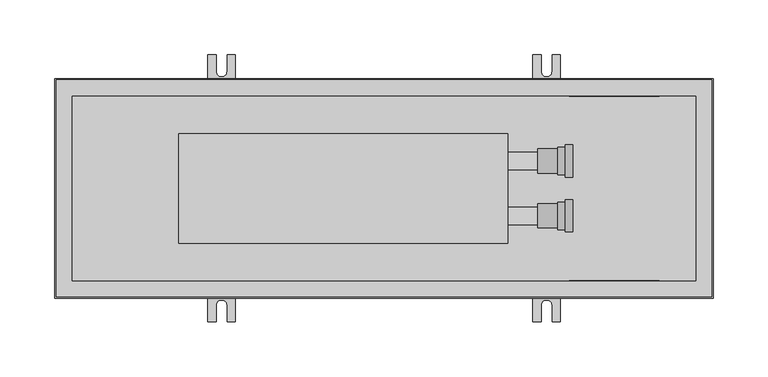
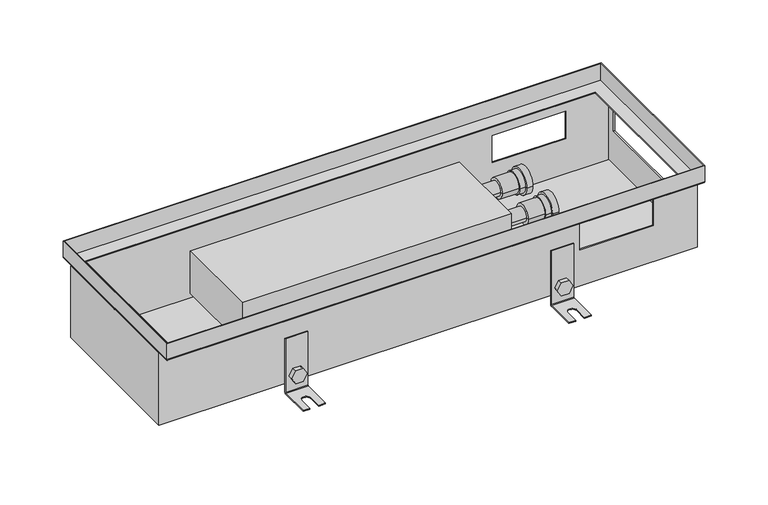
"""IFC4 building model written with IfcOpenShell, lengths in millimetres: proxy geometry, TECHNO_Конвектор встраиваемый_Usual_KVZ-200_85-105-120 : KVZ 200-105."""

from ifc_helpers import new_model, si_unit, point, frame, frame_2d, origin, place, context, project, spatial, polyline, circle_curve, ellipse_curve, trimmed, segment, composite_curve, outline, extrude, faceted_brep, source, transform, mapped, element, save
from ifc_brep_helpers import plane_surface, cylinder_surface, revolved_surface, advanced_brep


def mechanical_equipment_3e8f2376(model_context):
    return source(origin(), model_context, "Body", "SolidModel", [
        extrude(outline(composite_curve([segment(trimmed(circle_curve(frame_2d((-95.5, 448.2)), 7.5), [point((-95.5, 440.7))], [point((-95.5, 455.7))], False, "CARTESIAN"), True, "CONTINUOUS"), segment(trimmed(circle_curve(frame_2d((-95.5, 448.2)), 7.5), [point((-95.5, 455.7))], [point((-95.5, 440.7))], False, "CARTESIAN"), True, "CONTINUOUS")], self_intersect=False)), frame((0.0, 85.2, 0.0), z_axis=(0.0, 1.0, 0.0), x_axis=(0.0, 0.0, 1.0)), (0.0, 0.0, 1.0), 1.5),
        extrude(outline(polyline([(-95.5, 439.539746), (-103.0, 443.869873), (-103.0, 452.530127), (-95.5, 456.860254), (-88.0, 452.530127), (-88.0, 443.869873), (-95.5, 439.539746)])), frame((0.0, 87.9, 0.0), z_axis=(0.0, 1.0, 0.0), x_axis=(0.0, 0.0, 1.0)), (0.0, 0.0, 1.0), 5.1),
        advanced_brep(
        [(460.7, 87.9, -50.5), (460.7, 86.7, -50.5), (460.7, 86.7, -113.5), (460.7, 88.7, -115.5), (460.7, 121.7, -115.5), (460.7, 121.7, -114.3), (460.7, 88.7, -114.3), (460.7, 87.9, -113.5), (435.7, 87.9, -50.5), (435.7, 87.9, -113.5), (435.7, 88.7, -114.3), (435.7, 121.7, -114.3), (435.7, 121.7, -115.5), (435.7, 88.7, -115.5), (435.7, 86.7, -113.5), (435.7, 86.7, -50.5), (453.2, 121.7, -114.3), (453.2, 106.7, -114.3), (443.2, 106.7, -114.3), (443.2, 121.7, -114.3), (443.2, 121.7, -115.5), (453.2, 121.7, -115.5), (443.2, 106.7, -115.5), (453.2, 106.7, -115.5)],
        [
            (0, 1),
            (1, 2),
            (2, 3, circle_curve(frame((460.7, 88.7, -113.5), z_axis=(1.0, 0.0, 0.0), x_axis=(0.0, 1.0, 0.0)), 2.0)),
            (3, 4),
            (4, 5),
            (5, 6),
            (6, 7, circle_curve(frame((460.7, 88.7, -113.5), z_axis=(-1.0, 0.0, 0.0), x_axis=(0.0, 1.0, 0.0)), 0.8)),
            (7, 0),
            (8, 9),
            (9, 10, circle_curve(frame((435.7, 88.7, -113.5), z_axis=(1.0, 0.0, 0.0), x_axis=(0.0, 1.0, 0.0)), 0.8)),
            (10, 11),
            (11, 12),
            (12, 13),
            (13, 14, circle_curve(frame((435.7, 88.7, -113.5), z_axis=(-1.0, 0.0, 0.0), x_axis=(0.0, 1.0, 0.0)), 2.0)),
            (14, 15),
            (15, 8),
            (7, 9),
            (8, 0),
            (6, 10),
            (5, 16),
            (16, 17),
            (17, 18, circle_curve(frame((448.2, 106.7, -114.3), z_axis=(0.0, 0.0, -1.0), x_axis=(1.0, 0.0, 0.0)), 5.0)),
            (18, 19),
            (19, 11),
            (19, 20),
            (20, 12),
            (4, 21),
            (21, 16),
            (3, 13),
            (20, 22),
            (22, 23, circle_curve(frame((448.2, 106.7, -115.5), z_axis=(0.0, 0.0, 1.0), x_axis=(1.0, 0.0, 0.0)), 5.0)),
            (23, 21),
            (2, 14),
            (1, 15),
            (18, 22),
            (23, 17),
        ],
        [
            plane_surface(frame((460.7, 87.9, -50.5), z_axis=(1.0, 0.0, 0.0), x_axis=(0.0, 0.0, -1.0))),
            plane_surface(frame((435.7, 87.9, -50.5), z_axis=(-1.0, 0.0, 0.0), x_axis=(0.0, 0.0, 1.0))),
            plane_surface(frame((460.7, 87.9, -50.5), z_axis=(0.0, 1.0, 0.0), x_axis=(-1.0, 0.0, 0.0))),
            revolved_surface(polyline([(435.7, 89.5, -113.5), (460.7, 89.5, -113.5)]), (435.7, 88.7, -113.5), (-1.0, 0.0, 0.0)),
            plane_surface(frame((460.7, 88.7, -114.3), z_axis=(0.0, 0.0, 1.0), x_axis=(-1.0, 0.0, 0.0))),
            plane_surface(frame((460.7, 121.7, -114.3), z_axis=(0.0, 1.0, 0.0), x_axis=(-1.0, 0.0, 0.0))),
            plane_surface(frame((460.7, 121.7, -115.5), z_axis=(0.0, 0.0, -1.0), x_axis=(-1.0, 0.0, 0.0))),
            cylinder_surface(frame((435.7, 88.7, -113.5), z_axis=(1.0, 0.0, 0.0), x_axis=(0.0, 1.0, 0.0)), 2.0),
            plane_surface(frame((460.7, 86.7, -113.5), z_axis=(0.0, -1.0, 0.0), x_axis=(-1.0, 0.0, 0.0))),
            plane_surface(frame((460.7, 86.7, -50.5), z_axis=(0.0, 0.0, 1.0), x_axis=(-1.0, 0.0, 0.0))),
            plane_surface(frame((443.2, 106.7, -114.3), z_axis=(1.0, 0.0, 0.0), x_axis=(0.0, 0.0, -1.0))),
            plane_surface(frame((453.2, 121.7, -114.3), z_axis=(-1.0, 0.0, 0.0), x_axis=(0.0, 0.0, -1.0))),
            revolved_surface(polyline([(453.2, 106.7, -114.3), (453.2, 106.7, -115.5)]), (448.2, 106.7, -115.5), (0.0, 0.0, 1.0)),
        ],
        [
            (0, [[1, 2, 3, 4, 5, 6, 7, 8]]),
            (1, [[9, 10, 11, 12, 13, 14, 15, 16]]),
            (2, [[17, -9, 18, -8]]),
            (3, [[19, -10, -17, -7]]),
            (4, [[20, 21, 22, 23, 24, -11, -19, -6]]),
            (5, [[-24, 25, 26, -12]]),
            (5, [[27, 28, -20, -5]]),
            (6, [[29, -13, -26, 30, 31, 32, -27, -4]]),
            (7, [[33, -14, -29, -3]]),
            (8, [[34, -15, -33, -2]]),
            (9, [[-18, -16, -34, -1]]),
            (10, [[-30, -25, -23, 35]]),
            (11, [[-21, -28, -32, 36]]),
            (12, [[-22, -36, -31, -35]]),
        ],
    ),
        extrude(outline(composite_curve([segment(trimmed(circle_curve(frame_2d((-95.5, 448.2)), 7.5), [point((-95.5, 440.7))], [point((-95.5, 455.7))], False, "CARTESIAN"), True, "CONTINUOUS"), segment(trimmed(circle_curve(frame_2d((-95.5, 448.2)), 7.5), [point((-95.5, 455.7))], [point((-95.5, 440.7))], False, "CARTESIAN"), True, "CONTINUOUS")], self_intersect=False)), frame((0.0, -86.7, 0.0), z_axis=(0.0, 1.0, 0.0), x_axis=(0.0, 0.0, 1.0)), (0.0, 0.0, 1.0), 1.5),
        extrude(outline(polyline([(-95.5, 439.539746), (-103.0, 443.869873), (-103.0, 452.530127), (-95.5, 456.860254), (-88.0, 452.530127), (-88.0, 443.869873), (-95.5, 439.539746)])), frame((0.0, -93.0, 0.0), z_axis=(0.0, 1.0, 0.0), x_axis=(0.0, 0.0, 1.0)), (0.0, 0.0, 1.0), 5.1),
        advanced_brep(
        [(460.7, -87.9, -50.5), (460.7, -87.9, -113.5), (460.7, -88.7, -114.3), (460.7, -121.7, -114.3), (460.7, -121.7, -115.5), (460.7, -88.7, -115.5), (460.7, -86.7, -113.5), (460.7, -86.7, -50.5), (435.7, -87.9, -50.5), (435.7, -86.7, -50.5), (435.7, -86.7, -113.5), (435.7, -88.7, -115.5), (435.7, -121.7, -115.5), (435.7, -121.7, -114.3), (435.7, -88.7, -114.3), (435.7, -87.9, -113.5), (443.2, -121.7, -114.3), (443.2, -106.7, -114.3), (453.2, -106.7, -114.3), (453.2, -121.7, -114.3), (453.2, -121.7, -115.5), (443.2, -121.7, -115.5), (453.2, -106.7, -115.5), (443.2, -106.7, -115.5)],
        [
            (0, 1),
            (1, 2, circle_curve(frame((460.7, -88.7, -113.5), z_axis=(-1.0, 0.0, 0.0), x_axis=(0.0, -1.0, 0.0)), 0.8)),
            (2, 3),
            (3, 4),
            (4, 5),
            (5, 6, circle_curve(frame((460.7, -88.7, -113.5), z_axis=(1.0, 0.0, 0.0), x_axis=(0.0, -1.0, 0.0)), 2.0)),
            (6, 7),
            (7, 0),
            (8, 9),
            (9, 10),
            (10, 11, circle_curve(frame((435.7, -88.7, -113.5), z_axis=(-1.0, 0.0, 0.0), x_axis=(0.0, -1.0, 0.0)), 2.0)),
            (11, 12),
            (12, 13),
            (13, 14),
            (14, 15, circle_curve(frame((435.7, -88.7, -113.5), z_axis=(1.0, 0.0, 0.0), x_axis=(0.0, -1.0, 0.0)), 0.8)),
            (15, 8),
            (0, 8),
            (15, 1),
            (14, 2),
            (13, 16),
            (16, 17),
            (17, 18, circle_curve(frame((448.2, -106.7, -114.3), z_axis=(0.0, 0.0, -1.0), x_axis=(1.0, 0.0, 0.0)), 5.0)),
            (18, 19),
            (19, 3),
            (19, 20),
            (20, 4),
            (12, 21),
            (21, 16),
            (20, 22),
            (22, 23, circle_curve(frame((448.2, -106.7, -115.5), z_axis=(0.0, 0.0, 1.0), x_axis=(1.0, 0.0, 0.0)), 5.0)),
            (23, 21),
            (11, 5),
            (10, 6),
            (9, 7),
            (23, 17),
            (18, 22),
        ],
        [
            plane_surface(frame((460.7, -87.9, -50.5), z_axis=(1.0, 0.0, 0.0), x_axis=(0.0, 0.0, -1.0))),
            plane_surface(frame((435.7, -87.9, -50.5), z_axis=(-1.0, 0.0, 0.0), x_axis=(0.0, 0.0, 1.0))),
            plane_surface(frame((460.7, -87.9, -50.5), z_axis=(0.0, -1.0, 0.0), x_axis=(-1.0, 0.0, 0.0))),
            revolved_surface(polyline([(435.7, -89.5, -113.5), (460.7, -89.5, -113.5)]), (435.7, -88.7, -113.5), (-1.0, 0.0, 0.0)),
            plane_surface(frame((460.7, -88.7, -114.3), z_axis=(0.0, 0.0, 1.0), x_axis=(-1.0, 0.0, 0.0))),
            plane_surface(frame((460.7, -121.7, -114.3), z_axis=(0.0, -1.0, 0.0), x_axis=(-1.0, 0.0, 0.0))),
            plane_surface(frame((460.7, -121.7, -115.5), z_axis=(0.0, 0.0, -1.0), x_axis=(-1.0, 0.0, 0.0))),
            cylinder_surface(frame((435.7, -88.7, -113.5), z_axis=(1.0, 0.0, 0.0), x_axis=(0.0, -1.0, 0.0)), 2.0),
            plane_surface(frame((460.7, -86.7, -113.5), z_axis=(0.0, 1.0, 0.0), x_axis=(-1.0, 0.0, 0.0))),
            plane_surface(frame((460.7, -86.7, -50.5), z_axis=(0.0, 0.0, 1.0), x_axis=(-1.0, 0.0, 0.0))),
            plane_surface(frame((443.2, -106.7, -114.3), z_axis=(1.0, 0.0, 0.0), x_axis=(0.0, 0.0, -1.0))),
            plane_surface(frame((453.2, -121.7, -114.3), z_axis=(-1.0, 0.0, 0.0), x_axis=(0.0, 0.0, -1.0))),
            revolved_surface(polyline([(453.2, -106.7, -114.3), (453.2, -106.7, -115.5)]), (448.2, -106.7, -115.5), (0.0, 0.0, 1.0)),
        ],
        [
            (0, [[1, 2, 3, 4, 5, 6, 7, 8]]),
            (1, [[9, 10, 11, 12, 13, 14, 15, 16]]),
            (2, [[-1, 17, -16, 18]]),
            (3, [[-2, -18, -15, 19]]),
            (4, [[-3, -19, -14, 20, 21, 22, 23, 24]]),
            (5, [[-4, -24, 25, 26]]),
            (5, [[-13, 27, 28, -20]]),
            (6, [[-5, -26, 29, 30, 31, -27, -12, 32]]),
            (7, [[-6, -32, -11, 33]]),
            (8, [[-7, -33, -10, 34]]),
            (9, [[-8, -34, -9, -17]]),
            (10, [[35, -21, -28, -31]]),
            (11, [[36, -29, -25, -23]]),
            (12, [[-35, -30, -36, -22]]),
        ],
    ),
        extrude(outline(composite_curve([segment(trimmed(circle_curve(frame_2d((-95.5, 152.0)), 7.5), [point((-95.5, 144.5))], [point((-95.5, 159.5))], False, "CARTESIAN"), True, "CONTINUOUS"), segment(trimmed(circle_curve(frame_2d((-95.5, 152.0)), 7.5), [point((-95.5, 159.5))], [point((-95.5, 144.5))], False, "CARTESIAN"), True, "CONTINUOUS")], self_intersect=False)), frame((0.0, 85.2, 0.0), z_axis=(0.0, 1.0, 0.0), x_axis=(0.0, 0.0, 1.0)), (0.0, 0.0, 1.0), 1.5),
        extrude(outline(polyline([(-95.5, 143.339746), (-103.0, 147.669873), (-103.0, 156.330127), (-95.5, 160.660254), (-88.0, 156.330127), (-88.0, 147.669873), (-95.5, 143.339746)])), frame((0.0, 87.9, 0.0), z_axis=(0.0, 1.0, 0.0), x_axis=(0.0, 0.0, 1.0)), (0.0, 0.0, 1.0), 5.1),
        advanced_brep(
        [(164.5, 87.9, -50.5), (164.5, 86.7, -50.5), (164.5, 86.7, -113.5), (164.5, 88.7, -115.5), (164.5, 121.7, -115.5), (164.5, 121.7, -114.3), (164.5, 88.7, -114.3), (164.5, 87.9, -113.5), (139.5, 87.9, -50.5), (139.5, 87.9, -113.5), (139.5, 88.7, -114.3), (139.5, 121.7, -114.3), (139.5, 121.7, -115.5), (139.5, 88.7, -115.5), (139.5, 86.7, -113.5), (139.5, 86.7, -50.5), (157.0, 121.7, -114.3), (157.0, 106.7, -114.3), (147.0, 106.7, -114.3), (147.0, 121.7, -114.3), (147.0, 121.7, -115.5), (157.0, 121.7, -115.5), (147.0, 106.7, -115.5), (157.0, 106.7, -115.5)],
        [
            (0, 1),
            (1, 2),
            (2, 3, circle_curve(frame((164.5, 88.7, -113.5), z_axis=(1.0, 0.0, 0.0), x_axis=(0.0, 1.0, 0.0)), 2.0)),
            (3, 4),
            (4, 5),
            (5, 6),
            (6, 7, circle_curve(frame((164.5, 88.7, -113.5), z_axis=(-1.0, 0.0, 0.0), x_axis=(0.0, 1.0, 0.0)), 0.8)),
            (7, 0),
            (8, 9),
            (9, 10, circle_curve(frame((139.5, 88.7, -113.5), z_axis=(1.0, 0.0, 0.0), x_axis=(0.0, 1.0, 0.0)), 0.8)),
            (10, 11),
            (11, 12),
            (12, 13),
            (13, 14, circle_curve(frame((139.5, 88.7, -113.5), z_axis=(-1.0, 0.0, 0.0), x_axis=(0.0, 1.0, 0.0)), 2.0)),
            (14, 15),
            (15, 8),
            (7, 9),
            (8, 0),
            (6, 10),
            (5, 16),
            (16, 17),
            (17, 18, circle_curve(frame((152.0, 106.7, -114.3), z_axis=(0.0, 0.0, -1.0), x_axis=(1.0, 0.0, 0.0)), 5.0)),
            (18, 19),
            (19, 11),
            (19, 20),
            (20, 12),
            (4, 21),
            (21, 16),
            (3, 13),
            (20, 22),
            (22, 23, circle_curve(frame((152.0, 106.7, -115.5), z_axis=(0.0, 0.0, 1.0), x_axis=(1.0, 0.0, 0.0)), 5.0)),
            (23, 21),
            (2, 14),
            (1, 15),
            (18, 22),
            (23, 17),
        ],
        [
            plane_surface(frame((164.5, 87.9, -50.5), z_axis=(1.0, 0.0, 0.0), x_axis=(0.0, 0.0, -1.0))),
            plane_surface(frame((139.5, 87.9, -50.5), z_axis=(-1.0, 0.0, 0.0), x_axis=(0.0, 0.0, 1.0))),
            plane_surface(frame((164.5, 87.9, -50.5), z_axis=(0.0, 1.0, 0.0), x_axis=(-1.0, 0.0, 0.0))),
            revolved_surface(polyline([(139.5, 89.5, -113.5), (164.5, 89.5, -113.5)]), (139.5, 88.7, -113.5), (-1.0, 0.0, 0.0)),
            plane_surface(frame((164.5, 88.7, -114.3), z_axis=(0.0, 0.0, 1.0), x_axis=(-1.0, 0.0, 0.0))),
            plane_surface(frame((164.5, 121.7, -114.3), z_axis=(0.0, 1.0, 0.0), x_axis=(-1.0, 0.0, 0.0))),
            plane_surface(frame((164.5, 121.7, -115.5), z_axis=(0.0, 0.0, -1.0), x_axis=(-1.0, 0.0, 0.0))),
            cylinder_surface(frame((139.5, 88.7, -113.5), z_axis=(1.0, 0.0, 0.0), x_axis=(0.0, 1.0, 0.0)), 2.0),
            plane_surface(frame((164.5, 86.7, -113.5), z_axis=(0.0, -1.0, 0.0), x_axis=(-1.0, 0.0, 0.0))),
            plane_surface(frame((164.5, 86.7, -50.5), z_axis=(0.0, 0.0, 1.0), x_axis=(-1.0, 0.0, 0.0))),
            plane_surface(frame((147.0, 106.7, -114.3), z_axis=(1.0, 0.0, 0.0), x_axis=(0.0, 0.0, -1.0))),
            plane_surface(frame((157.0, 121.7, -114.3), z_axis=(-1.0, 0.0, 0.0), x_axis=(0.0, 0.0, -1.0))),
            revolved_surface(polyline([(157.0, 106.7, -114.3), (157.0, 106.7, -115.5)]), (152.0, 106.7, -115.5), (0.0, 0.0, 1.0)),
        ],
        [
            (0, [[1, 2, 3, 4, 5, 6, 7, 8]]),
            (1, [[9, 10, 11, 12, 13, 14, 15, 16]]),
            (2, [[17, -9, 18, -8]]),
            (3, [[19, -10, -17, -7]]),
            (4, [[20, 21, 22, 23, 24, -11, -19, -6]]),
            (5, [[-24, 25, 26, -12]]),
            (5, [[27, 28, -20, -5]]),
            (6, [[29, -13, -26, 30, 31, 32, -27, -4]]),
            (7, [[33, -14, -29, -3]]),
            (8, [[34, -15, -33, -2]]),
            (9, [[-18, -16, -34, -1]]),
            (10, [[-30, -25, -23, 35]]),
            (11, [[-21, -28, -32, 36]]),
            (12, [[-22, -36, -31, -35]]),
        ],
    ),
        extrude(outline(composite_curve([segment(trimmed(circle_curve(frame_2d((-95.5, 152.0)), 7.5), [point((-95.5, 144.5))], [point((-95.5, 159.5))], False, "CARTESIAN"), True, "CONTINUOUS"), segment(trimmed(circle_curve(frame_2d((-95.5, 152.0)), 7.5), [point((-95.5, 159.5))], [point((-95.5, 144.5))], False, "CARTESIAN"), True, "CONTINUOUS")], self_intersect=False)), frame((0.0, -86.7, 0.0), z_axis=(0.0, 1.0, 0.0), x_axis=(0.0, 0.0, 1.0)), (0.0, 0.0, 1.0), 1.5),
        extrude(outline(polyline([(-95.5, 143.339746), (-103.0, 147.669873), (-103.0, 156.330127), (-95.5, 160.660254), (-88.0, 156.330127), (-88.0, 147.669873), (-95.5, 143.339746)])), frame((0.0, -93.0, 0.0), z_axis=(0.0, 1.0, 0.0), x_axis=(0.0, 0.0, 1.0)), (0.0, 0.0, 1.0), 5.1),
        advanced_brep(
        [(164.5, -87.9, -50.5), (164.5, -87.9, -113.5), (164.5, -88.7, -114.3), (164.5, -121.7, -114.3), (164.5, -121.7, -115.5), (164.5, -88.7, -115.5), (164.5, -86.7, -113.5), (164.5, -86.7, -50.5), (139.5, -87.9, -50.5), (139.5, -86.7, -50.5), (139.5, -86.7, -113.5), (139.5, -88.7, -115.5), (139.5, -121.7, -115.5), (139.5, -121.7, -114.3), (139.5, -88.7, -114.3), (139.5, -87.9, -113.5), (147.0, -121.7, -114.3), (147.0, -106.7, -114.3), (157.0, -106.7, -114.3), (157.0, -121.7, -114.3), (157.0, -121.7, -115.5), (147.0, -121.7, -115.5), (157.0, -106.7, -115.5), (147.0, -106.7, -115.5)],
        [
            (0, 1),
            (1, 2, circle_curve(frame((164.5, -88.7, -113.5), z_axis=(-1.0, 0.0, 0.0), x_axis=(0.0, -1.0, 0.0)), 0.8)),
            (2, 3),
            (3, 4),
            (4, 5),
            (5, 6, circle_curve(frame((164.5, -88.7, -113.5), z_axis=(1.0, 0.0, 0.0), x_axis=(0.0, -1.0, 0.0)), 2.0)),
            (6, 7),
            (7, 0),
            (8, 9),
            (9, 10),
            (10, 11, circle_curve(frame((139.5, -88.7, -113.5), z_axis=(-1.0, 0.0, 0.0), x_axis=(0.0, -1.0, 0.0)), 2.0)),
            (11, 12),
            (12, 13),
            (13, 14),
            (14, 15, circle_curve(frame((139.5, -88.7, -113.5), z_axis=(1.0, 0.0, 0.0), x_axis=(0.0, -1.0, 0.0)), 0.8)),
            (15, 8),
            (0, 8),
            (15, 1),
            (14, 2),
            (13, 16),
            (16, 17),
            (17, 18, circle_curve(frame((152.0, -106.7, -114.3), z_axis=(0.0, 0.0, -1.0), x_axis=(1.0, 0.0, 0.0)), 5.0)),
            (18, 19),
            (19, 3),
            (19, 20),
            (20, 4),
            (12, 21),
            (21, 16),
            (20, 22),
            (22, 23, circle_curve(frame((152.0, -106.7, -115.5), z_axis=(0.0, 0.0, 1.0), x_axis=(1.0, 0.0, 0.0)), 5.0)),
            (23, 21),
            (11, 5),
            (10, 6),
            (9, 7),
            (23, 17),
            (18, 22),
        ],
        [
            plane_surface(frame((164.5, -87.9, -50.5), z_axis=(1.0, 0.0, 0.0), x_axis=(0.0, 0.0, -1.0))),
            plane_surface(frame((139.5, -87.9, -50.5), z_axis=(-1.0, 0.0, 0.0), x_axis=(0.0, 0.0, 1.0))),
            plane_surface(frame((164.5, -87.9, -50.5), z_axis=(0.0, -1.0, 0.0), x_axis=(-1.0, 0.0, 0.0))),
            revolved_surface(polyline([(139.5, -89.5, -113.5), (164.5, -89.5, -113.5)]), (139.5, -88.7, -113.5), (-1.0, 0.0, 0.0)),
            plane_surface(frame((164.5, -88.7, -114.3), z_axis=(0.0, 0.0, 1.0), x_axis=(-1.0, 0.0, 0.0))),
            plane_surface(frame((164.5, -121.7, -114.3), z_axis=(0.0, -1.0, 0.0), x_axis=(-1.0, 0.0, 0.0))),
            plane_surface(frame((164.5, -121.7, -115.5), z_axis=(0.0, 0.0, -1.0), x_axis=(-1.0, 0.0, 0.0))),
            cylinder_surface(frame((139.5, -88.7, -113.5), z_axis=(1.0, 0.0, 0.0), x_axis=(0.0, -1.0, 0.0)), 2.0),
            plane_surface(frame((164.5, -86.7, -113.5), z_axis=(0.0, 1.0, 0.0), x_axis=(-1.0, 0.0, 0.0))),
            plane_surface(frame((164.5, -86.7, -50.5), z_axis=(0.0, 0.0, 1.0), x_axis=(-1.0, 0.0, 0.0))),
            plane_surface(frame((147.0, -106.7, -114.3), z_axis=(1.0, 0.0, 0.0), x_axis=(0.0, 0.0, -1.0))),
            plane_surface(frame((157.0, -121.7, -114.3), z_axis=(-1.0, 0.0, 0.0), x_axis=(0.0, 0.0, -1.0))),
            revolved_surface(polyline([(157.0, -106.7, -114.3), (157.0, -106.7, -115.5)]), (152.0, -106.7, -115.5), (0.0, 0.0, 1.0)),
        ],
        [
            (0, [[1, 2, 3, 4, 5, 6, 7, 8]]),
            (1, [[9, 10, 11, 12, 13, 14, 15, 16]]),
            (2, [[-1, 17, -16, 18]]),
            (3, [[-2, -18, -15, 19]]),
            (4, [[-3, -19, -14, 20, 21, 22, 23, 24]]),
            (5, [[-4, -24, 25, 26]]),
            (5, [[-13, 27, 28, -20]]),
            (6, [[-5, -26, 29, 30, 31, -27, -12, 32]]),
            (7, [[-6, -32, -11, 33]]),
            (8, [[-7, -33, -10, 34]]),
            (9, [[-8, -34, -9, -17]]),
            (10, [[35, -21, -28, -31]]),
            (11, [[36, -29, -25, -23]]),
            (12, [[-35, -30, -36, -22]]),
        ],
    ),
        extrude(outline(polyline([(413.0, 50.0), (413.0, -50.0), (113.0, -50.0), (113.0, 50.0), (413.0, 50.0)])), frame((0.0, 0.0, -71.3), z_axis=(0.0, 0.0, 1.0), x_axis=(1.0, 0.0, 0.0)), (0.0, 0.0, 1.0), 50.0),
        advanced_brep(
        [(440.0, 25.0, -46.3), (440.0, 36.0, -46.3), (440.0, 14.0, -46.3), (458.5, 36.0, -46.3), (458.5, 14.0, -46.3), (458.5, 37.5, -46.3), (458.5, 12.5, -46.3), (465.0, 37.5, -46.3), (465.0, 12.5, -46.3), (465.0, 39.7, -46.3), (465.0, 10.3, -46.3), (472.0, 39.7, -46.3), (472.0, 10.3, -46.3), (472.0, 25.0, -46.3)],
        [
            (0, 1),
            (1, 2, circle_curve(frame((440.0, 25.0, -46.3), z_axis=(-1.0, 0.0, 0.0), x_axis=(0.0, 1.0, 0.0)), 11.0)),
            (2, 0),
            (2, 1, circle_curve(frame((440.0, 25.0, -46.3), z_axis=(-1.0, 0.0, 0.0), x_axis=(0.0, 1.0, 0.0)), 11.0)),
            (1, 3),
            (3, 4, circle_curve(frame((458.5, 25.0, -46.3), z_axis=(-1.0, 0.0, 0.0), x_axis=(0.0, 1.0, 0.0)), 11.0)),
            (4, 2),
            (4, 3, circle_curve(frame((458.5, 25.0, -46.3), z_axis=(-1.0, 0.0, 0.0), x_axis=(0.0, 1.0, 0.0)), 11.0)),
            (3, 5),
            (5, 6, circle_curve(frame((458.5, 25.0, -46.3), z_axis=(-1.0, 0.0, 0.0), x_axis=(0.0, 1.0, 0.0)), 12.5)),
            (6, 4),
            (6, 5, circle_curve(frame((458.5, 25.0, -46.3), z_axis=(-1.0, 0.0, 0.0), x_axis=(0.0, 1.0, 0.0)), 12.5)),
            (5, 7),
            (7, 8, circle_curve(frame((465.0, 25.0, -46.3), z_axis=(-1.0, 0.0, 0.0), x_axis=(0.0, 1.0, 0.0)), 12.5)),
            (8, 6),
            (8, 7, circle_curve(frame((465.0, 25.0, -46.3), z_axis=(-1.0, 0.0, 0.0), x_axis=(0.0, 1.0, 0.0)), 12.5)),
            (7, 9),
            (9, 10, circle_curve(frame((465.0, 25.0, -46.3), z_axis=(-1.0, 0.0, 0.0), x_axis=(0.0, 1.0, 0.0)), 14.7)),
            (10, 8),
            (10, 9, circle_curve(frame((465.0, 25.0, -46.3), z_axis=(-1.0, 0.0, 0.0), x_axis=(0.0, 1.0, 0.0)), 14.7)),
            (9, 11),
            (11, 12, circle_curve(frame((472.0, 25.0, -46.3), z_axis=(-1.0, 0.0, 0.0), x_axis=(0.0, 1.0, 0.0)), 14.7)),
            (12, 10),
            (12, 11, circle_curve(frame((472.0, 25.0, -46.3), z_axis=(-1.0, 0.0, 0.0), x_axis=(0.0, 1.0, 0.0)), 14.7)),
            (11, 13),
            (13, 12),
        ],
        [
            plane_surface(frame((440.0, 25.0, -46.3), z_axis=(-1.0, 0.0, 0.0), x_axis=(0.0, 1.0, 0.0))),
            cylinder_surface(frame((468.0, 25.0, -46.3), z_axis=(-1.0, 0.0, 0.0), x_axis=(0.0, 1.0, 0.0)), 11.0),
            plane_surface(frame((458.5, 25.0, -46.3), z_axis=(-1.0, 0.0, 0.0), x_axis=(0.0, 1.0, 0.0))),
            cylinder_surface(frame((468.0, 25.0, -46.3), z_axis=(-1.0, 0.0, 0.0), x_axis=(0.0, 1.0, 0.0)), 12.5),
            plane_surface(frame((465.0, 25.0, -46.3), z_axis=(-1.0, 0.0, 0.0), x_axis=(0.0, 1.0, 0.0))),
            cylinder_surface(frame((468.0, 25.0, -46.3), z_axis=(-1.0, 0.0, 0.0), x_axis=(0.0, 1.0, 0.0)), 14.7),
            plane_surface(frame((472.0, 25.0, -46.3), z_axis=(1.0, 0.0, 0.0), x_axis=(0.0, 1.0, 0.0))),
        ],
        [
            (0, [[1, 2, 3]]),
            (0, [[-3, 4, -1]]),
            (1, [[-2, 5, 6, 7]]),
            (1, [[-4, -7, 8, -5]]),
            (2, [[-6, 9, 10, 11]]),
            (2, [[-8, -11, 12, -9]]),
            (3, [[-10, 13, 14, 15]]),
            (3, [[-12, -15, 16, -13]]),
            (4, [[-14, 17, 18, 19]]),
            (4, [[-16, -19, 20, -17]]),
            (5, [[-18, 21, 22, 23]]),
            (5, [[-20, -23, 24, -21]]),
            (6, [[-22, 25, 26]]),
            (6, [[-24, -26, -25]]),
        ],
    ),
        advanced_brep(
        [(440.0, -25.0, -46.3), (440.0, -14.0, -46.3), (440.0, -36.0, -46.3), (458.5, -14.0, -46.3), (458.5, -36.0, -46.3), (458.5, -12.5, -46.3), (458.5, -37.5, -46.3), (465.0, -12.5, -46.3), (465.0, -37.5, -46.3), (465.0, -10.3, -46.3), (465.0, -39.7, -46.3), (472.0, -10.3, -46.3), (472.0, -39.7, -46.3), (472.0, -25.0, -46.3)],
        [
            (0, 1),
            (1, 2, circle_curve(frame((440.0, -25.0, -46.3), z_axis=(-1.0, 0.0, 0.0), x_axis=(0.0, 1.0, 0.0)), 11.0)),
            (2, 0),
            (2, 1, circle_curve(frame((440.0, -25.0, -46.3), z_axis=(-1.0, 0.0, 0.0), x_axis=(0.0, 1.0, 0.0)), 11.0)),
            (1, 3),
            (3, 4, circle_curve(frame((458.5, -25.0, -46.3), z_axis=(-1.0, 0.0, 0.0), x_axis=(0.0, 1.0, 0.0)), 11.0)),
            (4, 2),
            (4, 3, circle_curve(frame((458.5, -25.0, -46.3), z_axis=(-1.0, 0.0, 0.0), x_axis=(0.0, 1.0, 0.0)), 11.0)),
            (3, 5),
            (5, 6, circle_curve(frame((458.5, -25.0, -46.3), z_axis=(-1.0, 0.0, 0.0), x_axis=(0.0, 1.0, 0.0)), 12.5)),
            (6, 4),
            (6, 5, circle_curve(frame((458.5, -25.0, -46.3), z_axis=(-1.0, 0.0, 0.0), x_axis=(0.0, 1.0, 0.0)), 12.5)),
            (5, 7),
            (7, 8, circle_curve(frame((465.0, -25.0, -46.3), z_axis=(-1.0, 0.0, 0.0), x_axis=(0.0, 1.0, 0.0)), 12.5)),
            (8, 6),
            (8, 7, circle_curve(frame((465.0, -25.0, -46.3), z_axis=(-1.0, 0.0, 0.0), x_axis=(0.0, 1.0, 0.0)), 12.5)),
            (7, 9),
            (9, 10, circle_curve(frame((465.0, -25.0, -46.3), z_axis=(-1.0, 0.0, 0.0), x_axis=(0.0, 1.0, 0.0)), 14.7)),
            (10, 8),
            (10, 9, circle_curve(frame((465.0, -25.0, -46.3), z_axis=(-1.0, 0.0, 0.0), x_axis=(0.0, 1.0, 0.0)), 14.7)),
            (9, 11),
            (11, 12, circle_curve(frame((472.0, -25.0, -46.3), z_axis=(-1.0, 0.0, 0.0), x_axis=(0.0, 1.0, 0.0)), 14.7)),
            (12, 10),
            (12, 11, circle_curve(frame((472.0, -25.0, -46.3), z_axis=(-1.0, 0.0, 0.0), x_axis=(0.0, 1.0, 0.0)), 14.7)),
            (11, 13),
            (13, 12),
        ],
        [
            plane_surface(frame((440.0, -25.0, -46.3), z_axis=(-1.0, 0.0, 0.0), x_axis=(0.0, 1.0, 0.0))),
            cylinder_surface(frame((468.0, -25.0, -46.3), z_axis=(-1.0, 0.0, 0.0), x_axis=(0.0, 1.0, 0.0)), 11.0),
            plane_surface(frame((458.5, -25.0, -46.3), z_axis=(-1.0, 0.0, 0.0), x_axis=(0.0, 1.0, 0.0))),
            cylinder_surface(frame((468.0, -25.0, -46.3), z_axis=(-1.0, 0.0, 0.0), x_axis=(0.0, 1.0, 0.0)), 12.5),
            plane_surface(frame((465.0, -25.0, -46.3), z_axis=(-1.0, 0.0, 0.0), x_axis=(0.0, 1.0, 0.0))),
            cylinder_surface(frame((468.0, -25.0, -46.3), z_axis=(-1.0, 0.0, 0.0), x_axis=(0.0, 1.0, 0.0)), 14.7),
            plane_surface(frame((472.0, -25.0, -46.3), z_axis=(1.0, 0.0, 0.0), x_axis=(0.0, 1.0, 0.0))),
        ],
        [
            (0, [[1, 2, 3]]),
            (0, [[-3, 4, -1]]),
            (1, [[-2, 5, 6, 7]]),
            (1, [[-4, -7, 8, -5]]),
            (2, [[-6, 9, 10, 11]]),
            (2, [[-8, -11, 12, -9]]),
            (3, [[-10, 13, 14, 15]]),
            (3, [[-12, -15, 16, -13]]),
            (4, [[-14, 17, 18, 19]]),
            (4, [[-16, -19, 20, -17]]),
            (5, [[-18, 21, 22, 23]]),
            (5, [[-20, -23, 24, -21]]),
            (6, [[-22, 25, 26]]),
            (6, [[-24, -26, -25]]),
        ],
    ),
        extrude(outline(composite_curve([segment(trimmed(circle_curve(frame_2d((25.0, -46.3)), 8.0), [point((17.0, -46.3))], [point((33.0, -46.3))], False, "CARTESIAN"), True, "CONTINUOUS"), segment(trimmed(circle_curve(frame_2d((25.0, -46.3)), 8.0), [point((33.0, -46.3))], [point((17.0, -46.3))], False, "CARTESIAN"), True, "CONTINUOUS")], self_intersect=False)), frame((413.0, 0.0, 0.0), z_axis=(1.0, 0.0, 0.0), x_axis=(0.0, 1.0, 0.0)), (0.0, 0.0, 1.0), 27.0),
        extrude(outline(composite_curve([segment(trimmed(circle_curve(frame_2d((-25.0, -46.3)), 8.0), [point((-33.0, -46.3))], [point((-17.0, -46.3))], False, "CARTESIAN"), True, "CONTINUOUS"), segment(trimmed(circle_curve(frame_2d((-25.0, -46.3)), 8.0), [point((-17.0, -46.3))], [point((-33.0, -46.3))], False, "CARTESIAN"), True, "CONTINUOUS")], self_intersect=False)), frame((413.0, 0.0, 0.0), z_axis=(1.0, 0.0, 0.0), x_axis=(0.0, 1.0, 0.0)), (0.0, 0.0, 1.0), 27.0),
        faceted_brep([(598.8, -84.0, -103.8), (598.8, 84.0, -103.8), (1.2, 84.0, -103.8), (1.2, -84.0, -103.8), (0.0, -85.2, -105.0), (0.0, 85.2, -105.0), (600.0, 85.2, -105.0), (600.0, -85.2, -105.0), (600.0, -85.2, -20.5), (0.0, -85.2, -20.5), (469.0, -85.2, -30.3), (551.0, -85.2, -30.3), (551.0, -85.2, -62.3), (469.0, -85.2, -62.3), (600.0, 85.2, -20.5), (600.0, 74.5, -32.3), (600.0, 74.5, -64.3), (600.0, -77.0, -64.3), (600.0, -77.0, -32.3), (0.0, 85.2, -20.5), (551.0, 85.2, -30.3), (469.0, 85.2, -30.3), (469.0, 85.2, -62.3), (551.0, 85.2, -62.3), (598.8, -84.0, -20.5), (598.8, 84.0, -20.5), (598.8, 74.5, -64.3), (598.8, 74.5, -32.3), (598.8, -77.0, -32.3), (598.8, -77.0, -64.3), (1.2, -84.0, -20.5), (551.0, -84.0, -30.3), (469.0, -84.0, -30.3), (469.0, -84.0, -62.3), (551.0, -84.0, -62.3), (1.2, 84.0, -20.5), (469.0, 84.0, -30.3), (551.0, 84.0, -30.3), (551.0, 84.0, -62.3), (469.0, 84.0, -62.3)], [[[0, 1, 2, 3]], [[4, 5, 6, 7]], [[4, 7, 8, 9], [10, 11, 12, 13]], [[7, 6, 14, 8], [15, 16, 17, 18]], [[6, 5, 19, 14], [20, 21, 22, 23]], [[5, 4, 9, 19]], [[24, 25, 1, 0], [26, 27, 28, 29]], [[30, 24, 0, 3], [31, 32, 33, 34]], [[35, 30, 3, 2]], [[25, 35, 2, 1], [36, 37, 38, 39]], [[8, 14, 19, 9], [25, 24, 30, 35]], [[31, 11, 10, 32]], [[20, 37, 36, 21]], [[32, 10, 13, 33]], [[21, 36, 39, 22]], [[33, 13, 12, 34]], [[22, 39, 38, 23]], [[11, 31, 34, 12]], [[37, 20, 23, 38]], [[15, 27, 26, 16]], [[27, 15, 18, 28]], [[28, 18, 17, 29]], [[16, 26, 29, 17]]]),
        advanced_brep(
        [(584.0, 84.0, -19.3), (584.0, 84.0, -20.5), (584.0, -84.0, -20.5), (584.0, -84.0, -19.3), (598.8, 98.8, 0.0), (598.8, 98.8, -19.3), (598.8, -98.8, -19.3), (598.8, -98.8, 0.0), (600.0, 100.0, -18.5), (600.0, 100.0, 0.0), (600.0, -100.0, 0.0), (600.0, -100.0, -18.5), (16.0, -84.0, -20.5), (16.0, -84.0, -19.3), (1.2, -98.8, -19.3), (1.2, -98.8, 0.0), (0.0, -100.0, 0.0), (0.0, -100.0, -18.5), (16.0, 84.0, -20.5), (16.0, 84.0, -19.3), (1.2, 98.8, -19.3), (1.2, 98.8, 0.0), (0.0, 100.0, 0.0), (0.0, 100.0, -18.5), (598.0, -98.0, -20.5), (2.0, -98.0, -20.5), (2.0, 98.0, -20.5), (598.0, 98.0, -20.5)],
        [
            (0, 1),
            (1, 2),
            (2, 3),
            (3, 0),
            (4, 5),
            (5, 6),
            (6, 7),
            (7, 4),
            (8, 9),
            (9, 10),
            (10, 11),
            (11, 8),
            (2, 12),
            (12, 13),
            (13, 3),
            (6, 14),
            (14, 15),
            (15, 7),
            (10, 16),
            (16, 17),
            (17, 11),
            (12, 18),
            (18, 19),
            (19, 13),
            (14, 20),
            (20, 21),
            (21, 15),
            (16, 22),
            (22, 23),
            (23, 17),
            (24, 25),
            (25, 26),
            (26, 27),
            (27, 24),
            (1, 18),
            (0, 19),
            (5, 20),
            (4, 21),
            (9, 22),
            (8, 23),
            (27, 8, ellipse_curve(frame((598.0, 98.0, -18.5), z_axis=(0.7071067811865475, -0.7071067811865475, 0.0), x_axis=(0.7071067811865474, 0.7071067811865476, 0.0)), 2.8284271, 2.0)),
            (11, 24, ellipse_curve(frame((598.0, -98.0, -18.5), z_axis=(0.7071067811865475, 0.7071067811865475, 0.0), x_axis=(-0.7071067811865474, 0.7071067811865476, 0.0)), 2.8284271, 2.0)),
            (17, 25, ellipse_curve(frame((2.0, -98.0, -18.5), z_axis=(0.7071067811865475, -0.7071067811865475, 0.0), x_axis=(0.7071067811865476, 0.7071067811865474, 0.0)), 2.8284271, 2.0)),
            (23, 26, ellipse_curve(frame((2.0, 98.0, -18.5), z_axis=(-0.7071067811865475, -0.7071067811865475, 0.0), x_axis=(0.7071067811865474, -0.7071067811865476, 0.0)), 2.8284271, 2.0)),
        ],
        [
            plane_surface(frame((584.0, 84.0, -20.5), z_axis=(-1.0, 0.0, 0.0), x_axis=(0.0, -1.0, 0.0))),
            plane_surface(frame((598.8, 98.8, -19.3), z_axis=(-1.0, 0.0, 0.0), x_axis=(0.0, -1.0, 0.0))),
            plane_surface(frame((600.0, 100.0, 0.0), z_axis=(1.0, 0.0, 0.0), x_axis=(0.0, -1.0, 0.0))),
            plane_surface(frame((584.0, -84.0, -20.5), z_axis=(0.0, 1.0, 0.0), x_axis=(-1.0, 0.0, 0.0))),
            plane_surface(frame((598.8, -98.8, -19.3), z_axis=(0.0, 1.0, 0.0), x_axis=(-1.0, 0.0, 0.0))),
            plane_surface(frame((600.0, -100.0, 0.0), z_axis=(0.0, -1.0, 0.0), x_axis=(-1.0, 0.0, 0.0))),
            plane_surface(frame((16.0, -84.0, -20.5), z_axis=(1.0, 0.0, 0.0), x_axis=(0.0, 1.0, 0.0))),
            plane_surface(frame((1.2, -98.8, -19.3), z_axis=(1.0, 0.0, 0.0), x_axis=(0.0, 1.0, 0.0))),
            plane_surface(frame((0.0, -100.0, 0.0), z_axis=(-1.0, 0.0, 0.0), x_axis=(0.0, 1.0, 0.0))),
            plane_surface(frame((2.0, 98.0, -20.5), z_axis=(0.0, 0.0, -1.0), x_axis=(1.0, 0.0, 0.0))),
            plane_surface(frame((16.0, 84.0, -20.5), z_axis=(0.0, -1.0, 0.0), x_axis=(1.0, 0.0, 0.0))),
            plane_surface(frame((16.0, 84.0, -19.3), z_axis=(0.0, 0.0, 1.0), x_axis=(1.0, 0.0, 0.0))),
            plane_surface(frame((1.2, 98.8, -19.3), z_axis=(0.0, -1.0, 0.0), x_axis=(1.0, 0.0, 0.0))),
            plane_surface(frame((1.2, 98.8, 0.0), z_axis=(0.0, 0.0, 1.0), x_axis=(1.0, 0.0, 0.0))),
            plane_surface(frame((0.0, 100.0, 0.0), z_axis=(0.0, 1.0, 0.0), x_axis=(1.0, 0.0, 0.0))),
            cylinder_surface(frame((598.0, 100.0, -18.5), z_axis=(0.0, 1.0, 0.0), x_axis=(1.0, 0.0, 0.0)), 2.0),
            cylinder_surface(frame((600.0, -98.0, -18.5), z_axis=(1.0, 0.0, 0.0), x_axis=(0.0, -1.0, 0.0)), 2.0),
            cylinder_surface(frame((2.0, -100.0, -18.5), z_axis=(0.0, -1.0, 0.0), x_axis=(-1.0, 0.0, 0.0)), 2.0),
            cylinder_surface(frame((0.0, 98.0, -18.5), z_axis=(-1.0, 0.0, 0.0), x_axis=(0.0, 1.0, 0.0)), 2.0),
        ],
        [
            (0, [[1, 2, 3, 4]]),
            (1, [[5, 6, 7, 8]]),
            (2, [[9, 10, 11, 12]]),
            (3, [[-3, 13, 14, 15]]),
            (4, [[-7, 16, 17, 18]]),
            (5, [[-11, 19, 20, 21]]),
            (6, [[-14, 22, 23, 24]]),
            (7, [[-17, 25, 26, 27]]),
            (8, [[-20, 28, 29, 30]]),
            (9, [[31, 32, 33, 34], [35, -22, -13, -2]]),
            (10, [[-23, -35, -1, 36]]),
            (11, [[37, -25, -16, -6], [-15, -24, -36, -4]]),
            (12, [[-26, -37, -5, 38]]),
            (13, [[39, -28, -19, -10], [-18, -27, -38, -8]]),
            (14, [[-29, -39, -9, 40]]),
            (15, [[41, -12, 42, -34]]),
            (16, [[-42, -21, 43, -31]]),
            (17, [[-43, -30, 44, -32]]),
            (18, [[-44, -40, -41, -33]]),
        ],
    ),
    ])


if __name__ == "__main__":
    model = new_model("IFC4")
    model_context = context("Model", 3, world=origin())
    ifc_project = project(units=[si_unit("LENGTHUNIT", "METRE", prefix="MILLI")], contexts=[model_context])
    site = spatial("IfcSite", under=ifc_project)
    building = spatial("IfcBuilding", under=site)
    placement = place(None, origin())
    mechanical_equipment_shape = mechanical_equipment_3e8f2376(model_context)
    element("IfcBuildingElementProxy", 1, Name="TECHNO_Конвектор встраиваемый_Usual_KVZ-200_85-105-120 : KVZ 200-105", ObjectType="TECHNO_Конвектор встраиваемый_Usual_KVZ-200_85-105-120 : KVZ 200-105", at=placement, inside=building, context=model_context, shape_type="MappedRepresentation", body=[
        mapped(mechanical_equipment_shape, transform((0.0, 0.0, 0.0), x_axis=(1.0, 0.0, 0.0), y_axis=(0.0, 1.0, 0.0), z_axis=(0.0, 0.0, 1.0))),
    ])
    save(model, "model.ifc")
